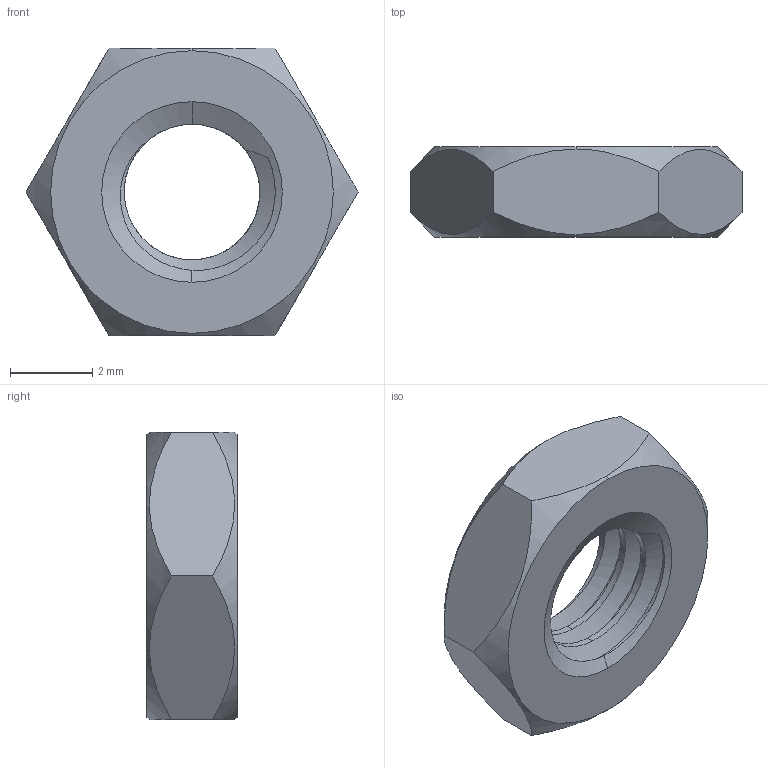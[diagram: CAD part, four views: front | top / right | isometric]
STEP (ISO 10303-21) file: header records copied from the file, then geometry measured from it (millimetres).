
FILE_DESCRIPTION (( 'STEP AP203' ), '1' );
FILE_NAME ('TANM-304-M4.STEP', '2026-08-25T09:08:35', ( '' ), ( '' ), 'SwSTEP 2.0', 'SolidWorks 2020', '' );
FILE_SCHEMA (( 'CONFIG_CONTROL_DESIGN' ));
Length unit declared in the file: millimetre
Products named in the file (1): TANM-304-M4
Bounding box: 8.08 x 2.2 x 7 mm (x, y, z)
Volume: 67.6 mm3; surface area: 145.2 mm2
Topology: 1 solids, 1 shells, 25 faces, 67 edges, 44 vertices
Faces by surface type: cone 8, plane 8, cylinder 6, bspline 3
Entity records: 2152 total; most frequent: CARTESIAN_POINT 1526, ORIENTED_EDGE 134, DIRECTION 87, EDGE_CURVE 67, VERTEX_POINT 44, AXIS2_PLACEMENT_3D 34, B_SPLINE_CURVE_WITH_KNOTS 29, EDGE_LOOP 27
